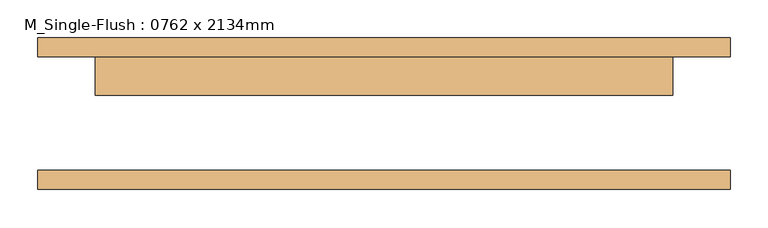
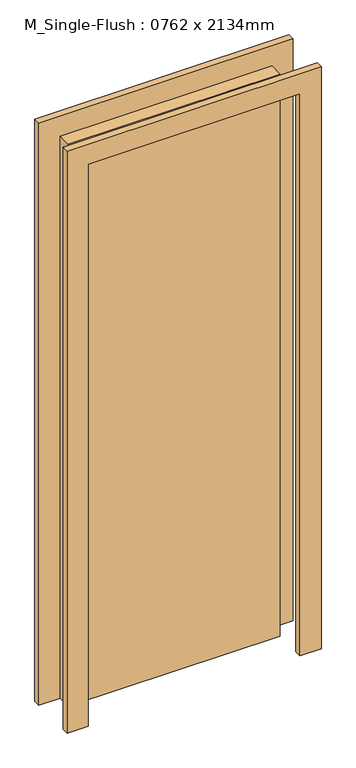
"""IFC4 building model written with IfcOpenShell, lengths in millimetres: door geometry, M_Single-Flush : 0762 x 2134mm."""

from ifc_helpers import new_model, si_unit, frame, origin, origin_with_axes, place, context, project, spatial, polyline, outline, extrude, source, transform, mapped, element, save


def m_single_flush_0762_x_2134mm_1533e4c5(model_context):
    return source(origin(), model_context, "Body", "SweptSolid", [
        extrude(outline(polyline([(2210.0, -457.0), (0.0, -457.0), (0.0, -381.0), (2134.0, -381.0), (2134.0, 381.0), (0.0, 381.0), (0.0, 457.0), (2210.0, 457.0), (2210.0, -457.0)])), frame((0.0, 75.0, 0.0), z_axis=(0.0, 1.0, 0.0), x_axis=(0.0, 0.0, 1.0)), (0.0, 0.0, 1.0), 25.0),
        extrude(outline(polyline([(2210.0, 457.0), (2210.0, -457.0), (0.0, -457.0), (0.0, -381.0), (2134.0, -381.0), (2134.0, 381.0), (0.0, 381.0), (0.0, 457.0), (2210.0, 457.0)])), frame((0.0, -100.0, 0.0), z_axis=(0.0, 1.0, 0.0), x_axis=(0.0, 0.0, 1.0)), (0.0, 0.0, 1.0), 25.0),
        extrude(outline(polyline([(381.0, 24.0), (-381.0, 24.0), (-381.0, 75.0), (381.0, 75.0), (381.0, 24.0)])), origin_with_axes(), (0.0, 0.0, 1.0), 2134.0),
    ])


if __name__ == "__main__":
    model = new_model("IFC4")
    model_context = context("Model", 3, world=origin())
    ifc_project = project(units=[si_unit("LENGTHUNIT", "METRE", prefix="MILLI")], contexts=[model_context])
    site = spatial("IfcSite", under=ifc_project)
    building = spatial("IfcBuilding", under=site)
    placement = place(None, origin())
    m_single_flush_0762_x_2134mm_shape = m_single_flush_0762_x_2134mm_1533e4c5(model_context)
    element("IfcDoor", 1, ObjectType="M_Single-Flush : 0762 x 2134mm", at=placement, inside=building, context=model_context, shape_type="MappedRepresentation", body=[
        mapped(m_single_flush_0762_x_2134mm_shape, transform((0.0, 0.0, 0.0), x_axis=(1.0, 0.0, 0.0), y_axis=(0.0, 1.0, 0.0), z_axis=(0.0, 0.0, 1.0))),
    ])
    save(model, "model.ifc")
